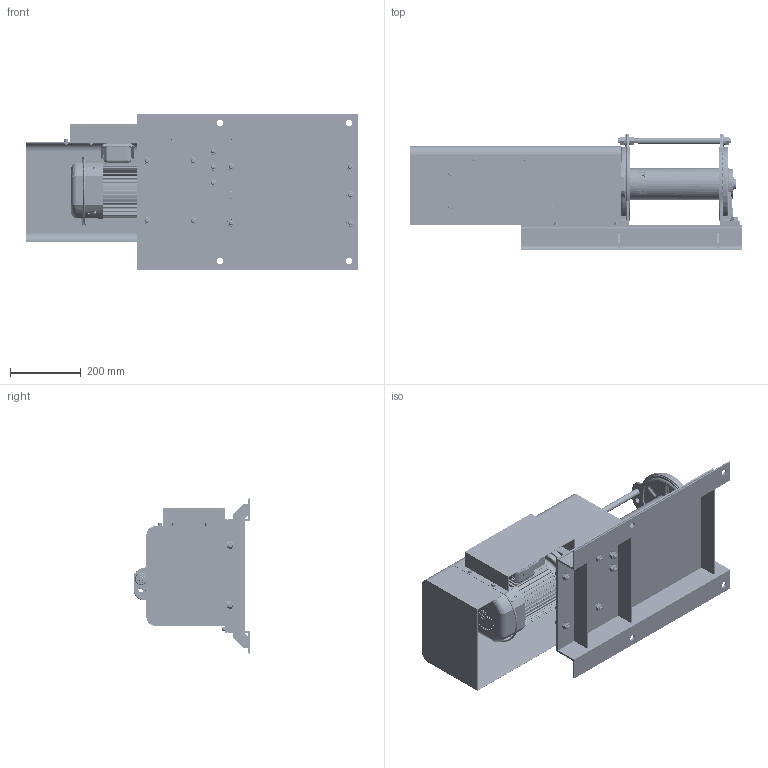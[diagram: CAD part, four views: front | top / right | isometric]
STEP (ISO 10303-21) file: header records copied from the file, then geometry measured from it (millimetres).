
FILE_DESCRIPTION( (''), '2;1');
FILE_NAME ('GLF-750.stp','2023-06-02T17:04:35',(''),(''),'spGate 19.8.2 (****-****-****-****)','','');
FILE_SCHEMA (('AUTOMOTIVE_DESIGN'));
Length unit declared in the file: millimetre
Products named in the file (5): Assembly; GLF-750-prt0; GLF-750-prt1; GLF-750-prt2; GLF-750-prt3
Assembly tree (4 placements, depth 2):
  Assembly
    GLF-750-prt0
    GLF-750-prt1
    GLF-750-prt2
    GLF-750-prt3
Bounding box: 940.5 x 331 x 440 mm (x, y, z)
Volume: 14684513.7 mm3; surface area: 3196893.6 mm2
Topology: 1 solids, 1 shells, 4554 faces, 11918 edges, 7599 vertices
Faces by surface type: cylinder 1838, plane 1837, bspline 785, sphere 94
Entity records: 278286 total; most frequent: CARTESIAN_POINT 77206, ORIENTED_EDGE 23682, DIRECTION 21484, COLOUR_RGB 16398, PRESENTATION_STYLE_ASSIGNMENT 16398, STYLED_ITEM 16398, EDGE_CURVE 11841, DRAUGHTING_PRE_DEFINED_CURVE_FONT 11841
